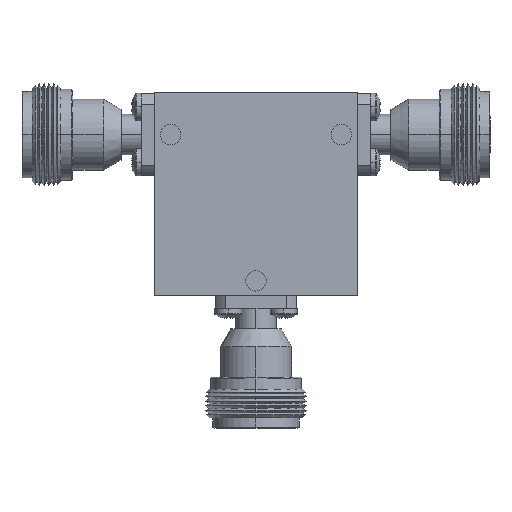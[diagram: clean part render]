
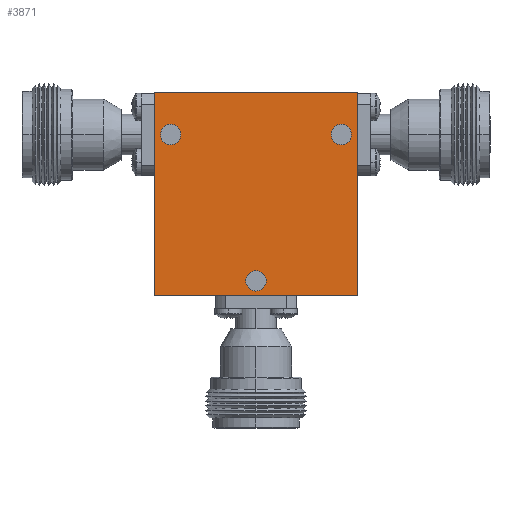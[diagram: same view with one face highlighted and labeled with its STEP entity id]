
A CAD part, top view. The second image highlights one B-rep face of the part: STEP entity #3871.
In plain terms, the highlighted planar face has unit normal (0, 0, 1) as drawn and (0, 0, -1) by its records, which use the part's own axes.
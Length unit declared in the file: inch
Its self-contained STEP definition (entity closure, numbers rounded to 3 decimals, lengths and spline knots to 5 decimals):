
#8 = VECTOR ( 'NONE', #4242, 39.37008 ) ;
#37 = DIRECTION ( 'NONE',  ( 1., 0., 0. ) ) ;
#61 = EDGE_CURVE ( 'NONE', #610, #1269, #1997, .T. ) ;
#82 = ORIENTED_EDGE ( 'NONE', *, *, #1818, .T. ) ;
#199 = VERTEX_POINT ( 'NONE', #4152 ) ;
#241 = AXIS2_PLACEMENT_3D ( 'NONE', #4372, #952, #969 ) ;
#370 = EDGE_CURVE ( 'NONE', #2208, #1137, #1267, .T. ) ;
#396 = ORIENTED_EDGE ( 'NONE', *, *, #3867, .F. ) ;
#411 = VERTEX_POINT ( 'NONE', #2542 ) ;
#416 = ORIENTED_EDGE ( 'NONE', *, *, #61, .F. ) ;
#483 = DIRECTION ( 'NONE',  ( 0., 0., 1. ) ) ;
#502 = CIRCLE ( 'NONE', #2117, 0.0625 ) ;
#610 = VERTEX_POINT ( 'NONE', #4978 ) ;
#828 = CARTESIAN_POINT ( 'NONE',  ( -0.525, 0.365, -0.365 ) ) ;
#862 = DIRECTION ( 'NONE',  ( 0., 0., 1. ) ) ;
#941 = ORIENTED_EDGE ( 'NONE', *, *, #4868, .F. ) ;
#952 = DIRECTION ( 'NONE',  ( 0., 0., 1. ) ) ;
#969 = DIRECTION ( 'NONE',  ( 1., 0., 0. ) ) ;
#1137 = VERTEX_POINT ( 'NONE', #1659 ) ;
#1225 = CIRCLE ( 'NONE', #2300, 0.0625 ) ;
#1230 = FACE_OUTER_BOUND ( 'NONE', #2550, .T. ) ;
#1267 = LINE ( 'NONE', #5066, #8 ) ;
#1269 = VERTEX_POINT ( 'NONE', #5227 ) ;
#1393 = PLANE ( 'NONE',  #5164 ) ;
#1447 = CARTESIAN_POINT ( 'NONE',  ( 0.625, 0.625, -0.365 ) ) ;
#1567 = CARTESIAN_POINT ( 'NONE',  ( -0.5875, 0.365, -0.365 ) ) ;
#1625 = VECTOR ( 'NONE', #3944, 39.37008 ) ;
#1647 = CIRCLE ( 'NONE', #2431, 0.0625 ) ;
#1659 = CARTESIAN_POINT ( 'NONE',  ( -0.625, 0.625, -0.365 ) ) ;
#1703 = CIRCLE ( 'NONE', #3407, 0.0625 ) ;
#1707 = EDGE_CURVE ( 'NONE', #3876, #3210, #1647, .T. ) ;
#1818 = EDGE_CURVE ( 'NONE', #3210, #3876, #2254, .T. ) ;
#1832 = CARTESIAN_POINT ( 'NONE',  ( 0.625, 0.625, -0.365 ) ) ;
#1902 = CARTESIAN_POINT ( 'NONE',  ( -0.625, -0.625, -0.365 ) ) ;
#1912 = ORIENTED_EDGE ( 'NONE', *, *, #3493, .T. ) ;
#1997 = LINE ( 'NONE', #1902, #4454 ) ;
#2008 = EDGE_LOOP ( 'NONE', ( #1912, #4812 ) ) ;
#2117 = AXIS2_PLACEMENT_3D ( 'NONE', #5326, #4893, #4955 ) ;
#2124 = CARTESIAN_POINT ( 'NONE',  ( 0.0625, -0.535, -0.365 ) ) ;
#2208 = VERTEX_POINT ( 'NONE', #1832 ) ;
#2254 = CIRCLE ( 'NONE', #241, 0.0625 ) ;
#2300 = AXIS2_PLACEMENT_3D ( 'NONE', #3112, #4404, #4869 ) ;
#2392 = VECTOR ( 'NONE', #4852, 39.37008 ) ;
#2431 = AXIS2_PLACEMENT_3D ( 'NONE', #3039, #483, #37 ) ;
#2530 = LINE ( 'NONE', #1447, #2392 ) ;
#2542 = CARTESIAN_POINT ( 'NONE',  ( -0.0625, -0.535, -0.365 ) ) ;
#2550 = EDGE_LOOP ( 'NONE', ( #941, #416, #396, #4013 ) ) ;
#2637 = FACE_BOUND ( 'NONE', #4142, .T. ) ;
#2794 = EDGE_CURVE ( 'NONE', #411, #3095, #502, .T. ) ;
#2826 = CIRCLE ( 'NONE', #3711, 0.0625 ) ;
#2899 = DIRECTION ( 'NONE',  ( 1., 0., 0. ) ) ;
#3032 = EDGE_LOOP ( 'NONE', ( #82, #4326 ) ) ;
#3039 = CARTESIAN_POINT ( 'NONE',  ( 0.525, 0.365, -0.365 ) ) ;
#3045 = LINE ( 'NONE', #3491, #1625 ) ;
#3095 = VERTEX_POINT ( 'NONE', #2124 ) ;
#3112 = CARTESIAN_POINT ( 'NONE',  ( -0.525, 0.365, -0.365 ) ) ;
#3210 = VERTEX_POINT ( 'NONE', #4339 ) ;
#3385 = CARTESIAN_POINT ( 'NONE',  ( 0., -0.535, -0.365 ) ) ;
#3407 = AXIS2_PLACEMENT_3D ( 'NONE', #3385, #3732, #2899 ) ;
#3491 = CARTESIAN_POINT ( 'NONE',  ( -0.625, 0.625, -0.365 ) ) ;
#3493 = EDGE_CURVE ( 'NONE', #3095, #411, #1703, .T. ) ;
#3544 = DIRECTION ( 'NONE',  ( 1., 0., 0. ) ) ;
#3548 = VERTEX_POINT ( 'NONE', #1567 ) ;
#3621 = DIRECTION ( 'NONE',  ( 1., 0., 0. ) ) ;
#3711 = AXIS2_PLACEMENT_3D ( 'NONE', #828, #862, #4647 ) ;
#3732 = DIRECTION ( 'NONE',  ( 0., 0., 1. ) ) ;
#3776 = FACE_BOUND ( 'NONE', #2008, .T. ) ;
#3867 = EDGE_CURVE ( 'NONE', #1137, #610, #3045, .T. ) ;
#3871 = ADVANCED_FACE ( 'NONE', ( #4896, #3776, #2637, #1230 ), #1393, .F. ) ;
#3876 = VERTEX_POINT ( 'NONE', #4369 ) ;
#3907 = DIRECTION ( 'NONE',  ( 0., 0., 1. ) ) ;
#3944 = DIRECTION ( 'NONE',  ( 0., -1., 0. ) ) ;
#4013 = ORIENTED_EDGE ( 'NONE', *, *, #370, .F. ) ;
#4019 = EDGE_CURVE ( 'NONE', #199, #3548, #1225, .T. ) ;
#4081 = ORIENTED_EDGE ( 'NONE', *, *, #4019, .T. ) ;
#4142 = EDGE_LOOP ( 'NONE', ( #4081, #4481 ) ) ;
#4152 = CARTESIAN_POINT ( 'NONE',  ( -0.4625, 0.365, -0.365 ) ) ;
#4242 = DIRECTION ( 'NONE',  ( -1., 0., 0. ) ) ;
#4326 = ORIENTED_EDGE ( 'NONE', *, *, #1707, .T. ) ;
#4339 = CARTESIAN_POINT ( 'NONE',  ( 0.5875, 0.365, -0.365 ) ) ;
#4369 = CARTESIAN_POINT ( 'NONE',  ( 0.4625, 0.365, -0.365 ) ) ;
#4372 = CARTESIAN_POINT ( 'NONE',  ( 0.525, 0.365, -0.365 ) ) ;
#4404 = DIRECTION ( 'NONE',  ( 0., 0., 1. ) ) ;
#4454 = VECTOR ( 'NONE', #3621, 39.37008 ) ;
#4481 = ORIENTED_EDGE ( 'NONE', *, *, #5213, .T. ) ;
#4647 = DIRECTION ( 'NONE',  ( 1., 0., 0. ) ) ;
#4806 = CARTESIAN_POINT ( 'NONE',  ( 0., 0., -0.365 ) ) ;
#4812 = ORIENTED_EDGE ( 'NONE', *, *, #2794, .T. ) ;
#4852 = DIRECTION ( 'NONE',  ( 0., 1., 0. ) ) ;
#4868 = EDGE_CURVE ( 'NONE', #1269, #2208, #2530, .T. ) ;
#4869 = DIRECTION ( 'NONE',  ( 1., 0., 0. ) ) ;
#4893 = DIRECTION ( 'NONE',  ( 0., 0., 1. ) ) ;
#4896 = FACE_BOUND ( 'NONE', #3032, .T. ) ;
#4955 = DIRECTION ( 'NONE',  ( 1., 0., 0. ) ) ;
#4978 = CARTESIAN_POINT ( 'NONE',  ( -0.625, -0.625, -0.365 ) ) ;
#5066 = CARTESIAN_POINT ( 'NONE',  ( -0.625, 0.625, -0.365 ) ) ;
#5164 = AXIS2_PLACEMENT_3D ( 'NONE', #4806, #3907, #3544 ) ;
#5213 = EDGE_CURVE ( 'NONE', #3548, #199, #2826, .T. ) ;
#5227 = CARTESIAN_POINT ( 'NONE',  ( 0.625, -0.625, -0.365 ) ) ;
#5326 = CARTESIAN_POINT ( 'NONE',  ( 0., -0.535, -0.365 ) ) ;
